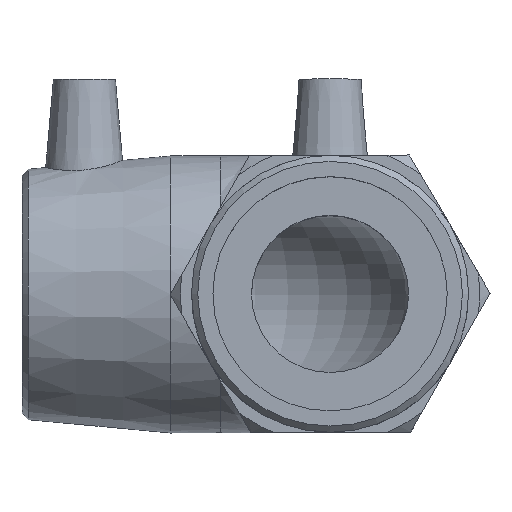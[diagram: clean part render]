
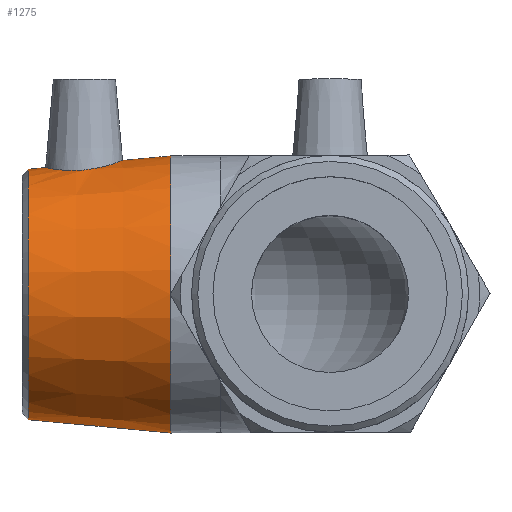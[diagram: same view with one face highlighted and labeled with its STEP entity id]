
A CAD part, top view. The second image highlights one B-rep face of the part: STEP entity #1275.
In plain terms, the highlighted conical face has half-angle 5.316 degrees and reference radius 31.825 mm.
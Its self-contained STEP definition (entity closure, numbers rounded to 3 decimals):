
#17=B_SPLINE_CURVE_WITH_KNOTS('',3,(#2183,#2184,#2185,#2186,#2187,#2188,
#2189,#2190,#2191,#2192,#2193,#2194,#2195,#2196,#2197,#2198,#2199,#2200,
#2201,#2202,#2203,#2204,#2205,#2206,#2207,#2208,#2209,#2210,#2211,#2212,
#2213,#2214,#2215,#2216),.UNSPECIFIED.,.T.,.F.,(4,2,2,2,2,2,2,2,2,2,2,2,
2,2,2,2,4),(0.,0.346,0.691,1.039,1.387,
1.735,2.083,2.429,2.774,3.142,
3.51,3.87,4.231,4.591,4.951,
5.319,5.687),.UNSPECIFIED.);
#24=FACE_BOUND('',#250,.T.);
#25=FACE_BOUND('',#251,.T.);
#123=CONICAL_SURFACE('',#1411,31.825,5.316);
#168=FACE_OUTER_BOUND('',#249,.T.);
#249=EDGE_LOOP('',(#1043));
#250=EDGE_LOOP('',(#1044));
#251=EDGE_LOOP('',(#1045));
#377=CIRCLE('',#1410,30.289);
#378=CIRCLE('',#1412,33.5);
#604=VERTEX_POINT('',#2177);
#605=VERTEX_POINT('',#2180);
#606=VERTEX_POINT('',#2182);
#765=EDGE_CURVE('',#604,#604,#377,.T.);
#766=EDGE_CURVE('',#605,#605,#378,.T.);
#767=EDGE_CURVE('',#606,#606,#17,.T.);
#1043=ORIENTED_EDGE('',*,*,#766,.F.);
#1044=ORIENTED_EDGE('',*,*,#767,.T.);
#1045=ORIENTED_EDGE('',*,*,#765,.F.);
#1275=ADVANCED_FACE('',(#168,#24,#25),#123,.T.);
#1410=AXIS2_PLACEMENT_3D('',#2178,#1719,#1720);
#1411=AXIS2_PLACEMENT_3D('',#2179,#1721,#1722);
#1412=AXIS2_PLACEMENT_3D('',#2181,#1723,#1724);
#1719=DIRECTION('center_axis',(-1.,0.,0.));
#1720=DIRECTION('ref_axis',(0.,-1.,0.));
#1721=DIRECTION('center_axis',(1.,0.,0.));
#1722=DIRECTION('ref_axis',(0.,1.,0.));
#1723=DIRECTION('center_axis',(1.,0.,0.));
#1724=DIRECTION('ref_axis',(0.,0.,-1.));
#2177=CARTESIAN_POINT('',(-73.006,30.289,0.));
#2178=CARTESIAN_POINT('Origin',(-73.006,0.,0.));
#2179=CARTESIAN_POINT('Origin',(-56.5,0.,0.));
#2180=CARTESIAN_POINT('',(-38.5,33.5,0.));
#2181=CARTESIAN_POINT('Origin',(-38.5,0.,0.));
#2182=CARTESIAN_POINT('',(-59.735,30.086,9.411));
#2183=CARTESIAN_POINT('Ctrl Pts',(-59.735,30.086,9.411));
#2184=CARTESIAN_POINT('Ctrl Pts',(-60.882,29.985,9.379));
#2185=CARTESIAN_POINT('Ctrl Pts',(-62.101,29.951,9.116));
#2186=CARTESIAN_POINT('Ctrl Pts',(-64.332,30.021,8.121));
#2187=CARTESIAN_POINT('Ctrl Pts',(-65.343,30.12,7.391));
#2188=CARTESIAN_POINT('Ctrl Pts',(-66.937,30.329,5.728));
#2189=CARTESIAN_POINT('Ctrl Pts',(-67.627,30.453,4.682));
#2190=CARTESIAN_POINT('Ctrl Pts',(-68.541,30.632,2.398));
#2191=CARTESIAN_POINT('Ctrl Pts',(-68.765,30.684,1.16));
#2192=CARTESIAN_POINT('Ctrl Pts',(-68.765,30.684,-1.16));
#2193=CARTESIAN_POINT('Ctrl Pts',(-68.541,30.632,-2.398));
#2194=CARTESIAN_POINT('Ctrl Pts',(-67.627,30.453,-4.682));
#2195=CARTESIAN_POINT('Ctrl Pts',(-66.937,30.329,-5.728));
#2196=CARTESIAN_POINT('Ctrl Pts',(-65.343,30.12,-7.391));
#2197=CARTESIAN_POINT('Ctrl Pts',(-64.332,30.021,-8.121));
#2198=CARTESIAN_POINT('Ctrl Pts',(-62.101,29.951,-9.116));
#2199=CARTESIAN_POINT('Ctrl Pts',(-60.882,29.985,-9.379));
#2200=CARTESIAN_POINT('Ctrl Pts',(-58.514,30.195,-9.445));
#2201=CARTESIAN_POINT('Ctrl Pts',(-57.223,30.394,-9.223));
#2202=CARTESIAN_POINT('Ctrl Pts',(-54.861,30.894,-8.269));
#2203=CARTESIAN_POINT('Ctrl Pts',(-53.789,31.191,-7.538));
#2204=CARTESIAN_POINT('Ctrl Pts',(-52.115,31.708,-5.859));
#2205=CARTESIAN_POINT('Ctrl Pts',(-51.392,31.963,-4.804));
#2206=CARTESIAN_POINT('Ctrl Pts',(-50.427,32.317,-2.475));
#2207=CARTESIAN_POINT('Ctrl Pts',(-50.186,32.413,-1.201));
#2208=CARTESIAN_POINT('Ctrl Pts',(-50.186,32.413,1.201));
#2209=CARTESIAN_POINT('Ctrl Pts',(-50.427,32.317,2.475));
#2210=CARTESIAN_POINT('Ctrl Pts',(-51.392,31.963,4.804));
#2211=CARTESIAN_POINT('Ctrl Pts',(-52.115,31.708,5.859));
#2212=CARTESIAN_POINT('Ctrl Pts',(-53.789,31.191,7.538));
#2213=CARTESIAN_POINT('Ctrl Pts',(-54.861,30.894,8.269));
#2214=CARTESIAN_POINT('Ctrl Pts',(-57.223,30.394,9.223));
#2215=CARTESIAN_POINT('Ctrl Pts',(-58.514,30.195,9.445));
#2216=CARTESIAN_POINT('Ctrl Pts',(-59.735,30.086,9.411));
